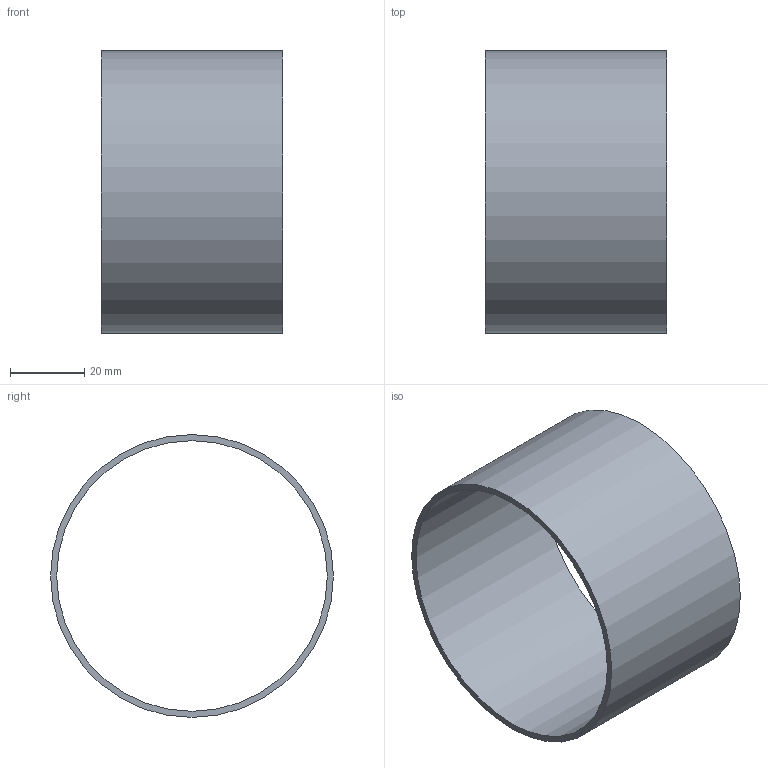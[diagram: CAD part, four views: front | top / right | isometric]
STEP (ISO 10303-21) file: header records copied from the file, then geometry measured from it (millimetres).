
FILE_DESCRIPTION(('Open CASCADE Model'),'2;1');
FILE_NAME('Open CASCADE Shape Model','2026-10-31T23:30:59',('Author'),( 'Open CASCADE'),'Open CASCADE STEP processor 7.9','Open CASCADE 7.9' ,'Unknown');
FILE_SCHEMA(('AUTOMOTIVE_DESIGN { 1 0 10303 214 1 1 1 1 }'));
Length unit declared in the file: millimetre
Products named in the file (1): Open CASCADE STEP translator 7.9 2
Bounding box: 49 x 76.2 x 76.2 mm (x, y, z)
Volume: 18935.5 mm3; surface area: 23725 mm2
Topology: 1 solids, 1 shells, 4 faces, 6 edges, 4 vertices
Faces by surface type: cylinder 2, plane 2
Full cylindrical faces by diameter (mm): 72.9 x1, 76.2 x1
Entity records: 186 total; most frequent: DIRECTION 32, CARTESIAN_POINT 27, ORIENTED_EDGE 12, PCURVE 12, DEFINITIONAL_REPRESENTATION 12, LINE 10, VECTOR 10, AXIS2_PLACEMENT_3D 9
